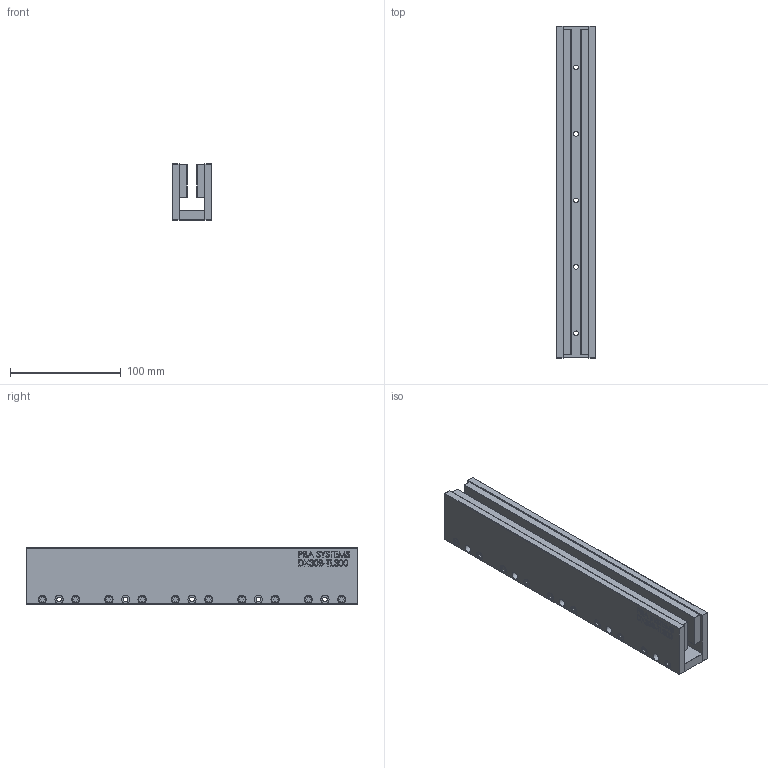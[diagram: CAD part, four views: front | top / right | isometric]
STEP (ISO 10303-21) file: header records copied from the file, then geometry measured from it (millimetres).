
FILE_DESCRIPTION (( 'STEP AP214' ), '1' );
FILE_NAME ('DX30B-TL300.STEP', '2016-05-11T09:07:16', ( '' ), ( '' ), 'SwSTEP 2.0', 'SolidWorks 2015', '' );
FILE_SCHEMA (( 'AUTOMOTIVE_DESIGN' ));
Length unit declared in the file: millimetre
Products named in the file (5): DX30B-TL300; M4X12 DIN7984 STAINLESS STEEL; DX30B-0000-001_COUSTOMER_TL300; DX30B-TL300-002_TL300; DX30B-TL300-001
Assembly tree (25 placements, depth 2):
  DX30B-TL300
    DX30B-TL300-001
    DX30B-TL300-002_TL300  x2
    DX30B-0000-001_COUSTOMER_TL300  x2
    M4X12 DIN7984 STAINLESS STEEL  x20
Bounding box: 35.7 x 299.5 x 50.8 mm (x, y, z)
Volume: 368621.1 mm3; surface area: 144775.3 mm2
Topology: 25 solids, 25 shells, 1204 faces, 2984 edges, 1936 vertices
Faces by surface type: plane 602, bspline 262, cylinder 244, cone 40, torus 40, sphere 16
Entity records: 21976 total; most frequent: CARTESIAN_POINT 10622, ORIENTED_EDGE 2452, DIRECTION 1914, EDGE_CURVE 1226, VERTEX_POINT 808, VECTOR 746, LINE 746, AXIS2_PLACEMENT_3D 584
